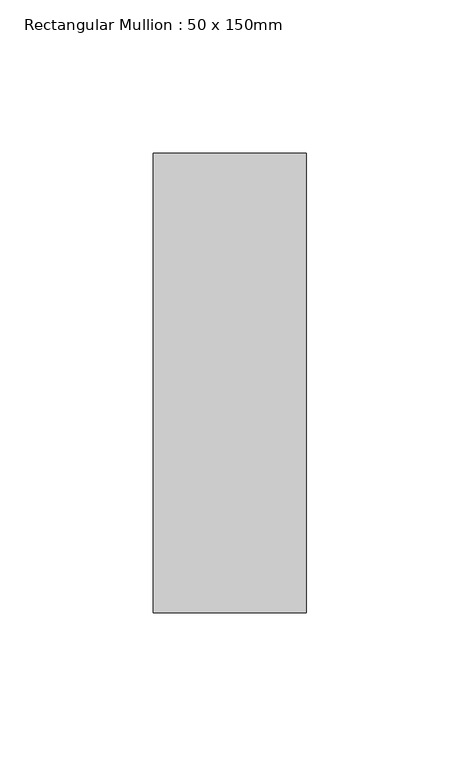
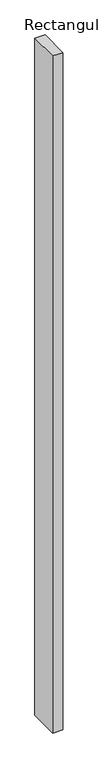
"""IFC4 building model written with IfcOpenShell, lengths in millimetres: member geometry, Rectangular Mullion : 50 x 150mm."""

from ifc_helpers import new_model, si_unit, frame, origin, place, context, project, spatial, polyline, outline, extrude, source, transform, mapped, element, save


def rectangular_mullion_50_x_150mm_fa1304e5(model_context):
    return source(origin(), model_context, "Body", "SweptSolid", [
        extrude(outline(polyline([(25.0, 75.0), (25.0, -75.0), (-25.0, -75.0), (-25.0, 75.0), (25.0, 75.0)])), frame((0.0, 0.0, -3495.0), z_axis=(0.0, 0.0, 1.0), x_axis=(1.0, 0.0, 0.0)), (0.0, 0.0, 1.0), 3495.0),
    ])


if __name__ == "__main__":
    model = new_model("IFC4")
    model_context = context("Model", 3, world=origin())
    ifc_project = project(units=[si_unit("LENGTHUNIT", "METRE", prefix="MILLI")], contexts=[model_context])
    site = spatial("IfcSite", under=ifc_project)
    building = spatial("IfcBuilding", under=site)
    placement = place(None, origin())
    rectangular_mullion_50_x_150mm_shape = rectangular_mullion_50_x_150mm_fa1304e5(model_context)
    element("IfcMember", 1, ObjectType="Rectangular Mullion : 50 x 150mm", at=placement, inside=building, context=model_context, shape_type="MappedRepresentation", body=[
        mapped(rectangular_mullion_50_x_150mm_shape, transform((0.0, 0.0, 0.0), x_axis=(1.0, 0.0, 0.0), y_axis=(0.0, 1.0, 0.0), z_axis=(0.0, 0.0, 1.0))),
    ])
    save(model, "model.ifc")
